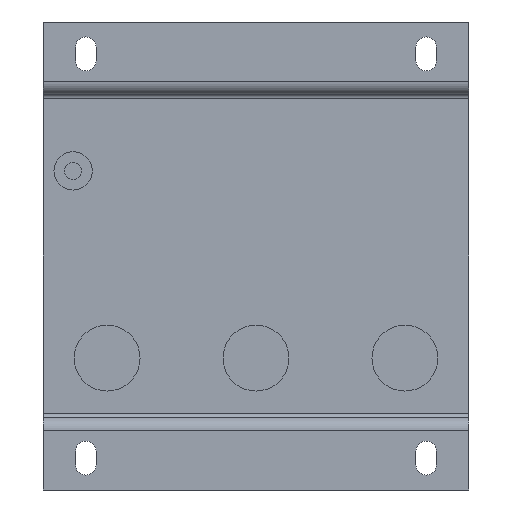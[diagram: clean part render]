
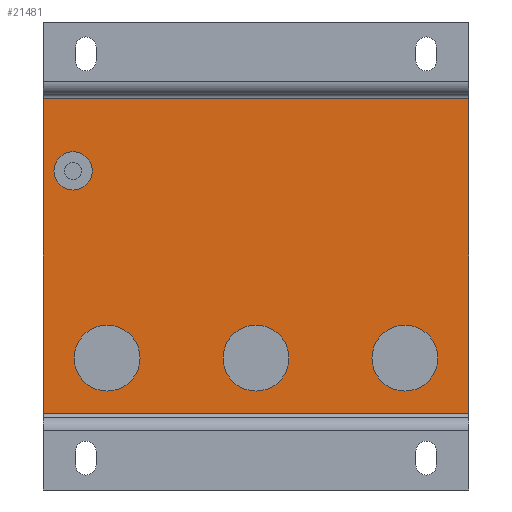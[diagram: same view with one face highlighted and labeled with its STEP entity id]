
A CAD part, front view. The second image highlights one B-rep face of the part: STEP entity #21481.
In plain terms, the highlighted planar face has unit normal (0, -1, 0).
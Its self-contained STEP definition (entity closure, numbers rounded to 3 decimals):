
#659 = EDGE_CURVE ( 'NONE', #18513, #13113, #20813, .T. ) ;
#1089 = ORIENTED_EDGE ( 'NONE', *, *, #659, .F. ) ;
#1124 = VERTEX_POINT ( 'NONE', #1637 ) ;
#1366 = EDGE_CURVE ( 'NONE', #9223, #21659, #2292, .T. ) ;
#1637 = CARTESIAN_POINT ( 'NONE',  ( -43., 15., -8.15 ) ) ;
#1781 = AXIS2_PLACEMENT_3D ( 'NONE', #14225, #20956, #4202 ) ;
#1920 = EDGE_LOOP ( 'NONE', ( #11022, #10625 ) ) ;
#2292 = LINE ( 'NONE', #16182, #21786 ) ;
#2957 = VECTOR ( 'NONE', #9594, 1000. ) ;
#3019 = ORIENTED_EDGE ( 'NONE', *, *, #4913, .T. ) ;
#3182 = DIRECTION ( 'NONE',  ( 0., 1., 0. ) ) ;
#3447 = VERTEX_POINT ( 'NONE', #9675 ) ;
#4028 = LINE ( 'NONE', #10735, #15572 ) ;
#4202 = DIRECTION ( 'NONE',  ( 0., 0., 1. ) ) ;
#4260 = AXIS2_PLACEMENT_3D ( 'NONE', #5090, #8270, #14691 ) ;
#4281 = CIRCLE ( 'NONE', #1781, 7.75 ) ;
#4913 = EDGE_CURVE ( 'NONE', #21659, #19449, #21696, .T. ) ;
#5090 = CARTESIAN_POINT ( 'NONE',  ( 35., 15., -47.65 ) ) ;
#5116 = DIRECTION ( 'NONE',  ( 0., 0., 1. ) ) ;
#5159 = DIRECTION ( 'NONE',  ( 0., -1., 0. ) ) ;
#5852 = CIRCLE ( 'NONE', #13958, 4.5 ) ;
#6023 = EDGE_CURVE ( 'NONE', #8194, #1124, #19047, .T. ) ;
#6147 = VERTEX_POINT ( 'NONE', #10766 ) ;
#6340 = CIRCLE ( 'NONE', #6695, 7.75 ) ;
#6473 = LINE ( 'NONE', #18277, #2957 ) ;
#6511 = CARTESIAN_POINT ( 'NONE',  ( -43., 15., 0.85 ) ) ;
#6605 = EDGE_CURVE ( 'NONE', #9223, #6147, #4028, .T. ) ;
#6644 = ORIENTED_EDGE ( 'NONE', *, *, #20874, .F. ) ;
#6645 = ORIENTED_EDGE ( 'NONE', *, *, #1366, .T. ) ;
#6695 = AXIS2_PLACEMENT_3D ( 'NONE', #21417, #16335, #20073 ) ;
#6716 = DIRECTION ( 'NONE',  ( 0., -1., 0. ) ) ;
#6825 = DIRECTION ( 'NONE',  ( 0., 1., 0. ) ) ;
#7283 = VERTEX_POINT ( 'NONE', #20142 ) ;
#7491 = ORIENTED_EDGE ( 'NONE', *, *, #6605, .F. ) ;
#7502 = CARTESIAN_POINT ( 'NONE',  ( -50., 15., -60.65 ) ) ;
#7965 = CIRCLE ( 'NONE', #9751, 7.75 ) ;
#8159 = EDGE_CURVE ( 'NONE', #7283, #11450, #15849, .T. ) ;
#8194 = VERTEX_POINT ( 'NONE', #6511 ) ;
#8270 = DIRECTION ( 'NONE',  ( 0., -1., 0. ) ) ;
#8567 = EDGE_LOOP ( 'NONE', ( #3019, #14980, #7491, #6645 ) ) ;
#8917 = EDGE_CURVE ( 'NONE', #13113, #18513, #4281, .T. ) ;
#9074 = DIRECTION ( 'NONE',  ( 0., 0., 1. ) ) ;
#9223 = VERTEX_POINT ( 'NONE', #7502 ) ;
#9360 = ORIENTED_EDGE ( 'NONE', *, *, #6023, .T. ) ;
#9563 = AXIS2_PLACEMENT_3D ( 'NONE', #11562, #3182, #9907 ) ;
#9594 = DIRECTION ( 'NONE',  ( 1., 0., 0. ) ) ;
#9675 = CARTESIAN_POINT ( 'NONE',  ( 0., 15., -39.9 ) ) ;
#9701 = ORIENTED_EDGE ( 'NONE', *, *, #16790, .F. ) ;
#9751 = AXIS2_PLACEMENT_3D ( 'NONE', #14819, #13383, #5116 ) ;
#9907 = DIRECTION ( 'NONE',  ( 0., 0., 1. ) ) ;
#10186 = EDGE_CURVE ( 'NONE', #1124, #8194, #5852, .T. ) ;
#10301 = CARTESIAN_POINT ( 'NONE',  ( 0., 15., -55.4 ) ) ;
#10375 = VERTEX_POINT ( 'NONE', #10301 ) ;
#10479 = DIRECTION ( 'NONE',  ( 0., 0., -1. ) ) ;
#10588 = FACE_BOUND ( 'NONE', #21856, .T. ) ;
#10625 = ORIENTED_EDGE ( 'NONE', *, *, #15178, .F. ) ;
#10735 = CARTESIAN_POINT ( 'NONE',  ( -50., 15., -63.65 ) ) ;
#10766 = CARTESIAN_POINT ( 'NONE',  ( -50., 15., 13.35 ) ) ;
#10899 = DIRECTION ( 'NONE',  ( 1., 0., 0. ) ) ;
#11022 = ORIENTED_EDGE ( 'NONE', *, *, #8159, .F. ) ;
#11450 = VERTEX_POINT ( 'NONE', #17225 ) ;
#11562 = CARTESIAN_POINT ( 'NONE',  ( -43., 15., -3.65 ) ) ;
#11930 = FACE_BOUND ( 'NONE', #18012, .T. ) ;
#12364 = FACE_BOUND ( 'NONE', #1920, .T. ) ;
#12368 = EDGE_LOOP ( 'NONE', ( #17865, #1089 ) ) ;
#12688 = CARTESIAN_POINT ( 'NONE',  ( 50., 15., -60.65 ) ) ;
#13113 = VERTEX_POINT ( 'NONE', #21109 ) ;
#13279 = CARTESIAN_POINT ( 'NONE',  ( -43., 15., -3.65 ) ) ;
#13383 = DIRECTION ( 'NONE',  ( 0., -1., 0. ) ) ;
#13465 = DIRECTION ( 'NONE',  ( 0., 0., 1. ) ) ;
#13958 = AXIS2_PLACEMENT_3D ( 'NONE', #13279, #18228, #18450 ) ;
#14225 = CARTESIAN_POINT ( 'NONE',  ( -35., 15., -47.65 ) ) ;
#14691 = DIRECTION ( 'NONE',  ( 0., 0., 1. ) ) ;
#14819 = CARTESIAN_POINT ( 'NONE',  ( 0., 15., -47.65 ) ) ;
#14980 = ORIENTED_EDGE ( 'NONE', *, *, #16034, .F. ) ;
#15178 = EDGE_CURVE ( 'NONE', #11450, #7283, #6340, .T. ) ;
#15286 = CARTESIAN_POINT ( 'NONE',  ( -35., 15., -47.65 ) ) ;
#15439 = CARTESIAN_POINT ( 'NONE',  ( -50., 15., -63.65 ) ) ;
#15572 = VECTOR ( 'NONE', #9074, 1000. ) ;
#15849 = CIRCLE ( 'NONE', #4260, 7.75 ) ;
#16034 = EDGE_CURVE ( 'NONE', #6147, #19449, #6473, .T. ) ;
#16182 = CARTESIAN_POINT ( 'NONE',  ( -50., 15., -60.65 ) ) ;
#16335 = DIRECTION ( 'NONE',  ( 0., -1., 0. ) ) ;
#16514 = VECTOR ( 'NONE', #20030, 1000. ) ;
#16790 = EDGE_CURVE ( 'NONE', #3447, #10375, #17415, .T. ) ;
#16951 = CARTESIAN_POINT ( 'NONE',  ( 50., 15., -63.65 ) ) ;
#17225 = CARTESIAN_POINT ( 'NONE',  ( 35., 15., -55.4 ) ) ;
#17415 = CIRCLE ( 'NONE', #20590, 7.75 ) ;
#17865 = ORIENTED_EDGE ( 'NONE', *, *, #8917, .F. ) ;
#18012 = EDGE_LOOP ( 'NONE', ( #9360, #18385 ) ) ;
#18228 = DIRECTION ( 'NONE',  ( 0., 1., 0. ) ) ;
#18277 = CARTESIAN_POINT ( 'NONE',  ( -50., 15., 13.35 ) ) ;
#18297 = AXIS2_PLACEMENT_3D ( 'NONE', #15439, #6825, #10479 ) ;
#18385 = ORIENTED_EDGE ( 'NONE', *, *, #10186, .T. ) ;
#18450 = DIRECTION ( 'NONE',  ( 0., 0., 1. ) ) ;
#18513 = VERTEX_POINT ( 'NONE', #20700 ) ;
#18527 = CARTESIAN_POINT ( 'NONE',  ( 0., 15., -47.65 ) ) ;
#18594 = DIRECTION ( 'NONE',  ( 0., 0., 1. ) ) ;
#18638 = PLANE ( 'NONE',  #18297 ) ;
#18748 = FACE_OUTER_BOUND ( 'NONE', #8567, .T. ) ;
#19047 = CIRCLE ( 'NONE', #9563, 4.5 ) ;
#19449 = VERTEX_POINT ( 'NONE', #21489 ) ;
#20030 = DIRECTION ( 'NONE',  ( 0., 0., 1. ) ) ;
#20073 = DIRECTION ( 'NONE',  ( 0., 0., 1. ) ) ;
#20142 = CARTESIAN_POINT ( 'NONE',  ( 35., 15., -39.9 ) ) ;
#20399 = FACE_BOUND ( 'NONE', #12368, .T. ) ;
#20590 = AXIS2_PLACEMENT_3D ( 'NONE', #18527, #6716, #13465 ) ;
#20700 = CARTESIAN_POINT ( 'NONE',  ( -35., 15., -55.4 ) ) ;
#20813 = CIRCLE ( 'NONE', #21500, 7.75 ) ;
#20874 = EDGE_CURVE ( 'NONE', #10375, #3447, #7965, .T. ) ;
#20956 = DIRECTION ( 'NONE',  ( 0., -1., 0. ) ) ;
#21109 = CARTESIAN_POINT ( 'NONE',  ( -35., 15., -39.9 ) ) ;
#21417 = CARTESIAN_POINT ( 'NONE',  ( 35., 15., -47.65 ) ) ;
#21481 = ADVANCED_FACE ( 'NONE', ( #11930, #20399, #10588, #12364, #18748 ), #18638, .F. ) ;
#21489 = CARTESIAN_POINT ( 'NONE',  ( 50., 15., 13.35 ) ) ;
#21500 = AXIS2_PLACEMENT_3D ( 'NONE', #15286, #5159, #18594 ) ;
#21659 = VERTEX_POINT ( 'NONE', #12688 ) ;
#21696 = LINE ( 'NONE', #16951, #16514 ) ;
#21786 = VECTOR ( 'NONE', #10899, 1000. ) ;
#21856 = EDGE_LOOP ( 'NONE', ( #9701, #6644 ) ) ;
